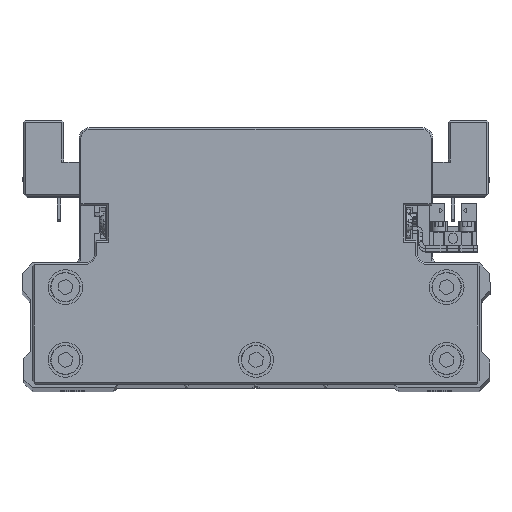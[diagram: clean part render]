
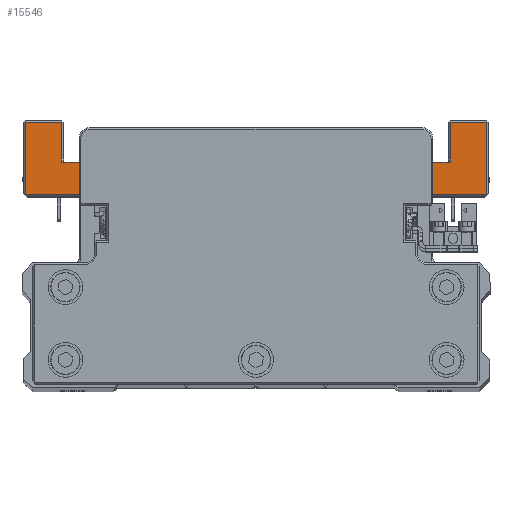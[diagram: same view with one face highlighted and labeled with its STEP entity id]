
A CAD part, top view. The second image highlights one B-rep face of the part: STEP entity #15546.
In plain terms, the highlighted planar face has unit normal (0, 0, 1) as drawn and (0, -1, 0) by its records, which use the part's own axes.
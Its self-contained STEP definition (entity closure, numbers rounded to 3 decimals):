
#34 = EDGE_CURVE ( 'NONE', #22643, #2409, #18466, .T. ) ;
#242 = CARTESIAN_POINT ( 'NONE',  ( -66.5, -45., -64. ) ) ;
#444 = CARTESIAN_POINT ( 'NONE',  ( 67., -45., -64. ) ) ;
#529 = CARTESIAN_POINT ( 'NONE',  ( 66.5, -45., -43. ) ) ;
#583 = DIRECTION ( 'NONE',  ( 0., 0., -1. ) ) ;
#594 = VERTEX_POINT ( 'NONE', #1152 ) ;
#595 = LINE ( 'NONE', #12850, #17672 ) ;
#1152 = CARTESIAN_POINT ( 'NONE',  ( -66.5, -45., -43. ) ) ;
#1183 = VERTEX_POINT ( 'NONE', #35377 ) ;
#1713 = LINE ( 'NONE', #13971, #6246 ) ;
#2002 = EDGE_CURVE ( 'NONE', #3410, #12453, #35438, .T. ) ;
#2409 = VERTEX_POINT ( 'NONE', #25770 ) ;
#3225 = DIRECTION ( 'NONE',  ( 1., 0., 0. ) ) ;
#3254 = ORIENTED_EDGE ( 'NONE', *, *, #22830, .F. ) ;
#3266 = VECTOR ( 'NONE', #6675, 1000. ) ;
#3276 = ORIENTED_EDGE ( 'NONE', *, *, #15994, .F. ) ;
#3410 = VERTEX_POINT ( 'NONE', #17251 ) ;
#3872 = EDGE_CURVE ( 'NONE', #18805, #12453, #20398, .T. ) ;
#4116 = EDGE_CURVE ( 'NONE', #35310, #16477, #12765, .T. ) ;
#4127 = CARTESIAN_POINT ( 'NONE',  ( -40.066, -45., -41.5 ) ) ;
#4174 = CARTESIAN_POINT ( 'NONE',  ( 40.066, -45., -41.5 ) ) ;
#4784 = DIRECTION ( 'NONE',  ( 0., 0., -1. ) ) ;
#5166 = DIRECTION ( 'NONE',  ( -1., 0., 0. ) ) ;
#5684 = LINE ( 'NONE', #17922, #20262 ) ;
#5717 = VECTOR ( 'NONE', #39391, 1000. ) ;
#6246 = VECTOR ( 'NONE', #26174, 1000. ) ;
#6357 = CARTESIAN_POINT ( 'NONE',  ( 66.5, -45., -64. ) ) ;
#6669 = ORIENTED_EDGE ( 'NONE', *, *, #34796, .T. ) ;
#6675 = DIRECTION ( 'NONE',  ( -1., 0., 0. ) ) ;
#6769 = VERTEX_POINT ( 'NONE', #22337 ) ;
#6952 = VECTOR ( 'NONE', #5166, 1000. ) ;
#7797 = PLANE ( 'NONE',  #21586 ) ;
#7979 = CARTESIAN_POINT ( 'NONE',  ( -56., -45., -52.5 ) ) ;
#8039 = CARTESIAN_POINT ( 'NONE',  ( 25.802, -45., -41.111 ) ) ;
#8451 = EDGE_CURVE ( 'NONE', #24468, #14283, #26602, .T. ) ;
#8635 = CARTESIAN_POINT ( 'NONE',  ( -46., -45., -54. ) ) ;
#8844 = AXIS2_PLACEMENT_3D ( 'NONE', #4127, #16366, #28579 ) ;
#8937 = CARTESIAN_POINT ( 'NONE',  ( -46., -45., -52.5 ) ) ;
#9040 = CARTESIAN_POINT ( 'NONE',  ( -40.066, -45., -43. ) ) ;
#9258 = AXIS2_PLACEMENT_3D ( 'NONE', #4174, #16407, #28621 ) ;
#9589 = CARTESIAN_POINT ( 'NONE',  ( 56., -45., -64. ) ) ;
#9608 = EDGE_CURVE ( 'NONE', #16477, #25499, #26535, .T. ) ;
#9779 = VERTEX_POINT ( 'NONE', #11392 ) ;
#9834 = VECTOR ( 'NONE', #11384, 1000. ) ;
#10148 = LINE ( 'NONE', #22368, #37571 ) ;
#10927 = ORIENTED_EDGE ( 'NONE', *, *, #20565, .F. ) ;
#10948 = LINE ( 'NONE', #23163, #23868 ) ;
#11381 = ORIENTED_EDGE ( 'NONE', *, *, #34, .T. ) ;
#11384 = DIRECTION ( 'NONE',  ( 0., 0., -1. ) ) ;
#11392 = CARTESIAN_POINT ( 'NONE',  ( 36.217, -45., -42.5 ) ) ;
#11856 = CARTESIAN_POINT ( 'NONE',  ( -56., -45., -52.5 ) ) ;
#12092 = CARTESIAN_POINT ( 'NONE',  ( -66.5, -45., -64.5 ) ) ;
#12453 = VERTEX_POINT ( 'NONE', #11856 ) ;
#12602 = EDGE_CURVE ( 'NONE', #28453, #594, #595, .T. ) ;
#12699 = DIRECTION ( 'NONE',  ( 1., 0., 0. ) ) ;
#12765 = LINE ( 'NONE', #24986, #38964 ) ;
#12850 = CARTESIAN_POINT ( 'NONE',  ( -66., -45., -43. ) ) ;
#12971 = VECTOR ( 'NONE', #3225, 1000. ) ;
#13037 = ORIENTED_EDGE ( 'NONE', *, *, #22575, .T. ) ;
#13223 = ORIENTED_EDGE ( 'NONE', *, *, #33387, .T. ) ;
#13971 = CARTESIAN_POINT ( 'NONE',  ( -46., -45., -52.5 ) ) ;
#14283 = VERTEX_POINT ( 'NONE', #9589 ) ;
#14955 = LINE ( 'NONE', #27155, #5717 ) ;
#15113 = ORIENTED_EDGE ( 'NONE', *, *, #24400, .T. ) ;
#15546 = ADVANCED_FACE ( 'NONE', ( #35244 ), #7797, .T. ) ;
#15840 = LINE ( 'NONE', #28049, #27842 ) ;
#15994 = EDGE_CURVE ( 'NONE', #22643, #18805, #1713, .T. ) ;
#16133 = ORIENTED_EDGE ( 'NONE', *, *, #28051, .T. ) ;
#16366 = DIRECTION ( 'NONE',  ( 0., 1., 0. ) ) ;
#16407 = DIRECTION ( 'NONE',  ( 0., 1., 0. ) ) ;
#16477 = VERTEX_POINT ( 'NONE', #39094 ) ;
#17080 = VERTEX_POINT ( 'NONE', #6357 ) ;
#17251 = CARTESIAN_POINT ( 'NONE',  ( -56., -45., -64. ) ) ;
#17672 = VECTOR ( 'NONE', #25066, 1000. ) ;
#17922 = CARTESIAN_POINT ( 'NONE',  ( -39.868, -45., -42.987 ) ) ;
#17966 = EDGE_CURVE ( 'NONE', #594, #37090, #39546, .T. ) ;
#18117 = CARTESIAN_POINT ( 'NONE',  ( 56., -45., -52.5 ) ) ;
#18466 = LINE ( 'NONE', #30686, #12971 ) ;
#18805 = VERTEX_POINT ( 'NONE', #8937 ) ;
#19804 = VECTOR ( 'NONE', #24316, 1000. ) ;
#20014 = CARTESIAN_POINT ( 'NONE',  ( 0., -45., 0. ) ) ;
#20205 = DIRECTION ( 'NONE',  ( 0., 0., 1. ) ) ;
#20262 = VECTOR ( 'NONE', #30134, 1000. ) ;
#20266 = DIRECTION ( 'NONE',  ( -0.991, 0., 0.132 ) ) ;
#20398 = LINE ( 'NONE', #32625, #6952 ) ;
#20565 = EDGE_CURVE ( 'NONE', #24468, #1183, #10948, .T. ) ;
#21586 = AXIS2_PLACEMENT_3D ( 'NONE', #20014, #32242, #4784 ) ;
#21912 = LINE ( 'NONE', #34129, #3266 ) ;
#22337 = CARTESIAN_POINT ( 'NONE',  ( -36.217, -45., -42.5 ) ) ;
#22368 = CARTESIAN_POINT ( 'NONE',  ( -55.5, -45., -64. ) ) ;
#22450 = VERTEX_POINT ( 'NONE', #31299 ) ;
#22575 = EDGE_CURVE ( 'NONE', #25499, #9779, #35501, .T. ) ;
#22643 = VERTEX_POINT ( 'NONE', #8635 ) ;
#22830 = EDGE_CURVE ( 'NONE', #1183, #2409, #15840, .T. ) ;
#23163 = CARTESIAN_POINT ( 'NONE',  ( 55.5, -45., -52.5 ) ) ;
#23868 = VECTOR ( 'NONE', #35392, 1000. ) ;
#24241 = ORIENTED_EDGE ( 'NONE', *, *, #32145, .T. ) ;
#24316 = DIRECTION ( 'NONE',  ( 0., 0., -1. ) ) ;
#24400 = EDGE_CURVE ( 'NONE', #6769, #22450, #5684, .T. ) ;
#24465 = ORIENTED_EDGE ( 'NONE', *, *, #17966, .T. ) ;
#24468 = VERTEX_POINT ( 'NONE', #18117 ) ;
#24986 = CARTESIAN_POINT ( 'NONE',  ( 40.066, -45., -43. ) ) ;
#25066 = DIRECTION ( 'NONE',  ( -1., 0., 0. ) ) ;
#25499 = VERTEX_POINT ( 'NONE', #37058 ) ;
#25770 = CARTESIAN_POINT ( 'NONE',  ( 46., -45., -54. ) ) ;
#26129 = CIRCLE ( 'NONE', #8844, 1.5 ) ;
#26174 = DIRECTION ( 'NONE',  ( 0., 0., 1. ) ) ;
#26535 = CIRCLE ( 'NONE', #9258, 1.5 ) ;
#26602 = LINE ( 'NONE', #38835, #9834 ) ;
#26748 = ORIENTED_EDGE ( 'NONE', *, *, #12602, .T. ) ;
#27009 = EDGE_LOOP ( 'NONE', ( #16133, #15113, #13223, #26748, #24465, #24241, #31581, #36642, #3276, #11381, #3254, #10927, #33811, #35140, #6669, #35242, #30548, #13037 ) ) ;
#27155 = CARTESIAN_POINT ( 'NONE',  ( 66.5, -45., -43.5 ) ) ;
#27842 = VECTOR ( 'NONE', #583, 1000. ) ;
#27913 = LINE ( 'NONE', #444, #37834 ) ;
#28037 = EDGE_CURVE ( 'NONE', #14283, #17080, #27913, .T. ) ;
#28049 = CARTESIAN_POINT ( 'NONE',  ( 46., -45., -52.5 ) ) ;
#28051 = EDGE_CURVE ( 'NONE', #9779, #6769, #21912, .T. ) ;
#28453 = VERTEX_POINT ( 'NONE', #9040 ) ;
#28579 = DIRECTION ( 'NONE',  ( 0., 0., -1. ) ) ;
#28621 = DIRECTION ( 'NONE',  ( 0., 0., -1. ) ) ;
#30134 = DIRECTION ( 'NONE',  ( -0.991, 0., -0.132 ) ) ;
#30548 = ORIENTED_EDGE ( 'NONE', *, *, #9608, .T. ) ;
#30686 = CARTESIAN_POINT ( 'NONE',  ( 46., -45., -54. ) ) ;
#31299 = CARTESIAN_POINT ( 'NONE',  ( -39.868, -45., -42.987 ) ) ;
#31581 = ORIENTED_EDGE ( 'NONE', *, *, #2002, .T. ) ;
#32145 = EDGE_CURVE ( 'NONE', #37090, #3410, #10148, .T. ) ;
#32242 = DIRECTION ( 'NONE',  ( 0., -1., 0. ) ) ;
#32304 = VECTOR ( 'NONE', #20266, 1000. ) ;
#32625 = CARTESIAN_POINT ( 'NONE',  ( -55.5, -45., -52.5 ) ) ;
#33387 = EDGE_CURVE ( 'NONE', #22450, #28453, #26129, .T. ) ;
#33811 = ORIENTED_EDGE ( 'NONE', *, *, #8451, .T. ) ;
#34129 = CARTESIAN_POINT ( 'NONE',  ( -77.786, -45., -42.5 ) ) ;
#34582 = DIRECTION ( 'NONE',  ( 1., 0., 0. ) ) ;
#34796 = EDGE_CURVE ( 'NONE', #17080, #35310, #14955, .T. ) ;
#35140 = ORIENTED_EDGE ( 'NONE', *, *, #28037, .T. ) ;
#35242 = ORIENTED_EDGE ( 'NONE', *, *, #4116, .T. ) ;
#35244 = FACE_OUTER_BOUND ( 'NONE', #27009, .T. ) ;
#35310 = VERTEX_POINT ( 'NONE', #529 ) ;
#35377 = CARTESIAN_POINT ( 'NONE',  ( 46., -45., -52.5 ) ) ;
#35392 = DIRECTION ( 'NONE',  ( -1., 0., 0. ) ) ;
#35438 = LINE ( 'NONE', #7979, #38957 ) ;
#35501 = LINE ( 'NONE', #8039, #32304 ) ;
#36642 = ORIENTED_EDGE ( 'NONE', *, *, #3872, .F. ) ;
#37058 = CARTESIAN_POINT ( 'NONE',  ( 39.868, -45., -42.987 ) ) ;
#37090 = VERTEX_POINT ( 'NONE', #242 ) ;
#37205 = DIRECTION ( 'NONE',  ( -1., 0., 0. ) ) ;
#37571 = VECTOR ( 'NONE', #34582, 1000. ) ;
#37834 = VECTOR ( 'NONE', #12699, 1000. ) ;
#38835 = CARTESIAN_POINT ( 'NONE',  ( 56., -45., -64.5 ) ) ;
#38957 = VECTOR ( 'NONE', #20205, 1000. ) ;
#38964 = VECTOR ( 'NONE', #37205, 1000. ) ;
#39094 = CARTESIAN_POINT ( 'NONE',  ( 40.066, -45., -43. ) ) ;
#39391 = DIRECTION ( 'NONE',  ( 0., 0., 1. ) ) ;
#39546 = LINE ( 'NONE', #12092, #19804 ) ;
